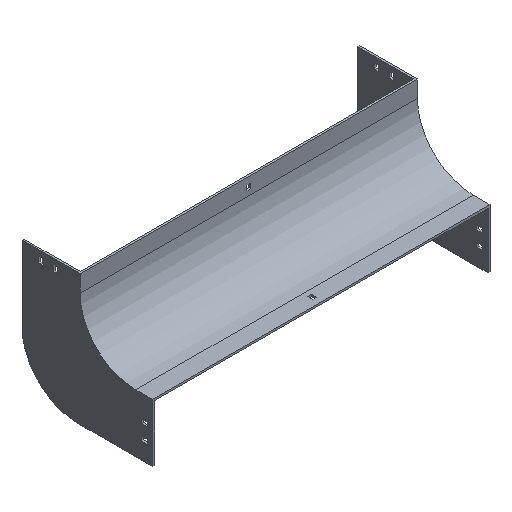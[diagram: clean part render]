
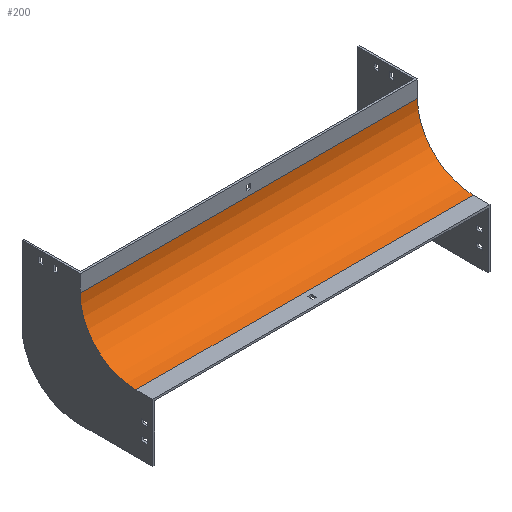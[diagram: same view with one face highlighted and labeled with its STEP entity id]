
A CAD part, isometric view. The second image highlights one B-rep face of the part: STEP entity #200.
In plain terms, the highlighted cylindrical face has radius 100 mm (diameter 200 mm), a partial arc.
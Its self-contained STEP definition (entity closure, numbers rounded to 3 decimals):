
#41 = CARTESIAN_POINT ( 'NONE',  ( 302., 0., -30. ) ) ;
#78 = VERTEX_POINT ( 'NONE', #1579 ) ;
#113 = CARTESIAN_POINT ( 'NONE',  ( -302., -100., -130. ) ) ;
#130 = CYLINDRICAL_SURFACE ( 'NONE', #228, 100. ) ;
#200 = ADVANCED_FACE ( 'NONE', ( #1488 ), #130, .F. ) ;
#228 = AXIS2_PLACEMENT_3D ( 'NONE', #305, #1509, #443 ) ;
#233 = EDGE_CURVE ( 'NONE', #863, #78, #1323, .T. ) ;
#305 = CARTESIAN_POINT ( 'NONE',  ( 302., -100., -30. ) ) ;
#321 = ORIENTED_EDGE ( 'NONE', *, *, #1193, .T. ) ;
#443 = DIRECTION ( 'NONE',  ( 0., 0., 1. ) ) ;
#473 = DIRECTION ( 'NONE',  ( -1., 0., 0. ) ) ;
#492 = AXIS2_PLACEMENT_3D ( 'NONE', #1808, #473, #1517 ) ;
#583 = VERTEX_POINT ( 'NONE', #1769 ) ;
#649 = AXIS2_PLACEMENT_3D ( 'NONE', #1265, #1226, #1410 ) ;
#670 = EDGE_CURVE ( 'NONE', #78, #1438, #1760, .T. ) ;
#689 = ORIENTED_EDGE ( 'NONE', *, *, #916, .T. ) ;
#766 = ORIENTED_EDGE ( 'NONE', *, *, #670, .F. ) ;
#863 = VERTEX_POINT ( 'NONE', #41 ) ;
#877 = LINE ( 'NONE', #1480, #1159 ) ;
#883 = EDGE_LOOP ( 'NONE', ( #689, #766, #1626, #321 ) ) ;
#916 = EDGE_CURVE ( 'NONE', #583, #1438, #1925, .T. ) ;
#1159 = VECTOR ( 'NONE', #1347, 1000. ) ;
#1193 = EDGE_CURVE ( 'NONE', #863, #583, #877, .T. ) ;
#1226 = DIRECTION ( 'NONE',  ( -1., 0., 0. ) ) ;
#1265 = CARTESIAN_POINT ( 'NONE',  ( -302., -100., -30. ) ) ;
#1323 = CIRCLE ( 'NONE', #492, 100. ) ;
#1347 = DIRECTION ( 'NONE',  ( -1., 0., 0. ) ) ;
#1410 = DIRECTION ( 'NONE',  ( 0., 0., 1. ) ) ;
#1438 = VERTEX_POINT ( 'NONE', #113 ) ;
#1463 = CARTESIAN_POINT ( 'NONE',  ( 302., -100., -130. ) ) ;
#1469 = VECTOR ( 'NONE', #1632, 1000. ) ;
#1480 = CARTESIAN_POINT ( 'NONE',  ( 302., 0., -30. ) ) ;
#1488 = FACE_OUTER_BOUND ( 'NONE', #883, .T. ) ;
#1509 = DIRECTION ( 'NONE',  ( -1., 0., 0. ) ) ;
#1517 = DIRECTION ( 'NONE',  ( 0., 0., 1. ) ) ;
#1579 = CARTESIAN_POINT ( 'NONE',  ( 302., -100., -130. ) ) ;
#1626 = ORIENTED_EDGE ( 'NONE', *, *, #233, .F. ) ;
#1632 = DIRECTION ( 'NONE',  ( -1., 0., 0. ) ) ;
#1760 = LINE ( 'NONE', #1463, #1469 ) ;
#1769 = CARTESIAN_POINT ( 'NONE',  ( -302., 0., -30. ) ) ;
#1808 = CARTESIAN_POINT ( 'NONE',  ( 302., -100., -30. ) ) ;
#1925 = CIRCLE ( 'NONE', #649, 100. ) ;
